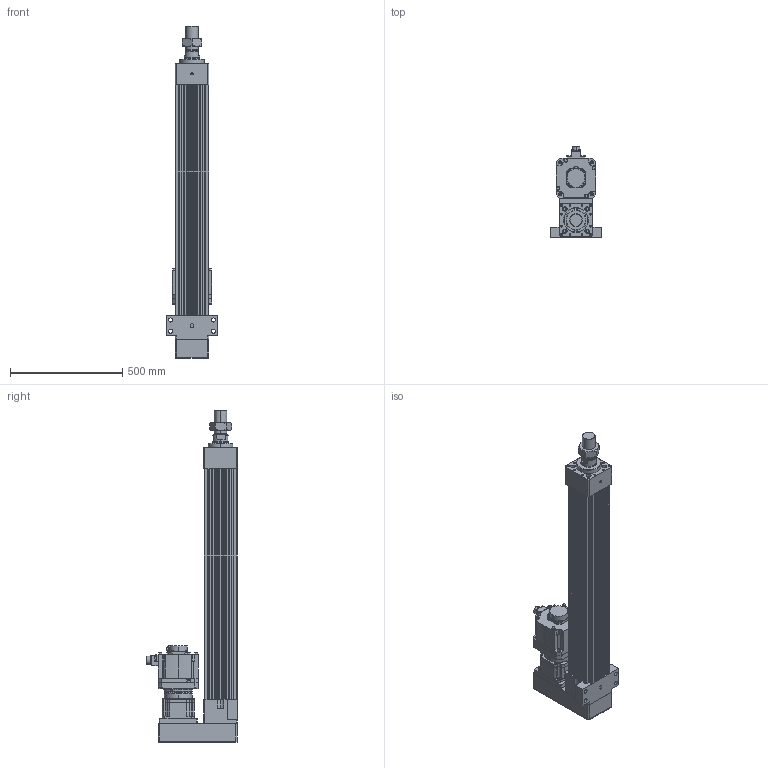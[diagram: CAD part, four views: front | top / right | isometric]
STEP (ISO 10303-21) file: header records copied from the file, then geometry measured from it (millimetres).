
FILE_DESCRIPTION (( 'STEP AP203' ), '1' );
FILE_NAME ('HES150NS(HS)-P750-W035G00-M-FFC.STEP', '2023-01-31T10:00:33', ( 'tms' ), ( '' ), 'SwSTEP 2.0', 'SolidWorks 2013', '' );
FILE_SCHEMA (( 'CONFIG_CONTROL_DESIGN' ));
Length unit declared in the file: millimetre
Products named in the file (9): AB142-003[HG-SR352]; HES150 ROD M ST750; HES150NS(HS)-P750-W035G00-M-FFC; AB1421; P1301500001; HES150-P750-G142-FFC; HG-SR352; P0403500801; M56X2.0P
Assembly tree (8 placements, depth 3):
  HES150NS(HS)-P750-W035G00-M-FFC
    HES150-P750-G142-FFC
    HES150 ROD M ST750
    M56X2.0P
    AB142-003[HG-SR352]
      AB1421
      P1301500001
      P0403500801
    HG-SR352
Bounding box: 230 x 403.85 x 1476 mm (x, y, z)
Volume: 22972401.9 mm3; surface area: 2380331.1 mm2
Topology: 4 solids, 18 shells, 1470 faces, 3831 edges, 2471 vertices
Faces by surface type: cylinder 693, plane 529, cone 166, bspline 76, torus 6
Entity records: 53945 total; most frequent: CARTESIAN_POINT 16549, DIRECTION 7839, ORIENTED_EDGE 7520, EDGE_CURVE 3782, AXIS2_PLACEMENT_3D 2986, VERTEX_POINT 2471, VECTOR 1867, LINE 1867
